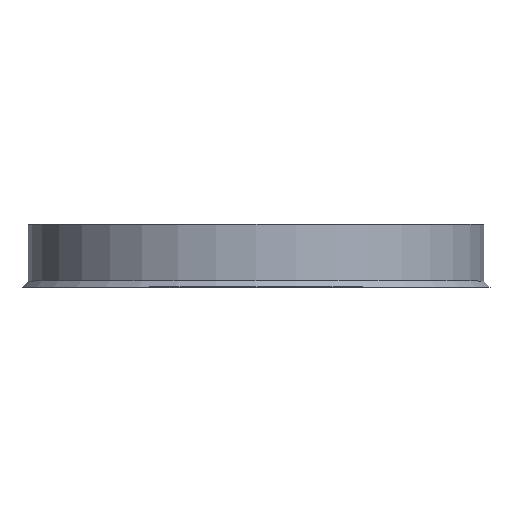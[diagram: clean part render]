
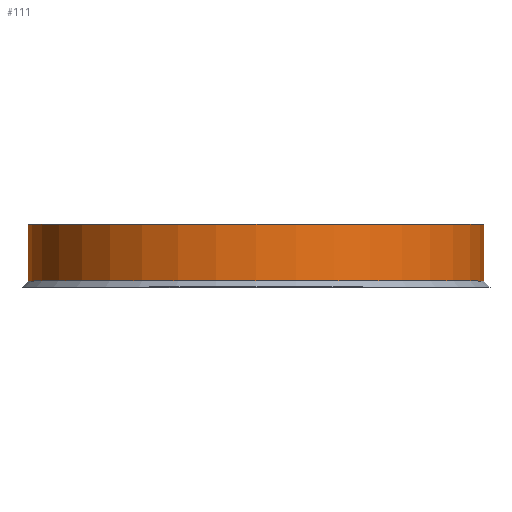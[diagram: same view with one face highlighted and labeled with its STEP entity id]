
A CAD part, top view. The second image highlights one B-rep face of the part: STEP entity #111.
In plain terms, the highlighted cylindrical face has radius 36.3 mm (diameter 72.6 mm), a full revolution.
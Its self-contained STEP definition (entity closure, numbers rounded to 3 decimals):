
#20=CYLINDRICAL_SURFACE('',#149,36.3);
#27=FACE_OUTER_BOUND('',#36,.T.);
#36=EDGE_LOOP('',(#97,#98,#99,#100,#101));
#41=LINE('',#215,#46);
#46=VECTOR('',#186,36.3);
#50=CIRCLE('',#141,36.3);
#53=CIRCLE('',#147,36.3);
#54=CIRCLE('',#148,36.3);
#58=VERTEX_POINT('',#199);
#61=VERTEX_POINT('',#209);
#62=VERTEX_POINT('',#210);
#68=EDGE_CURVE('',#58,#58,#50,.T.);
#72=EDGE_CURVE('',#61,#62,#53,.T.);
#74=EDGE_CURVE('',#62,#61,#54,.T.);
#75=EDGE_CURVE('',#58,#62,#41,.T.);
#97=ORIENTED_EDGE('',*,*,#68,.F.);
#98=ORIENTED_EDGE('',*,*,#75,.T.);
#99=ORIENTED_EDGE('',*,*,#74,.T.);
#100=ORIENTED_EDGE('',*,*,#72,.T.);
#101=ORIENTED_EDGE('',*,*,#75,.F.);
#111=ADVANCED_FACE('',(#27),#20,.T.);
#141=AXIS2_PLACEMENT_3D('',#200,#166,#167);
#147=AXIS2_PLACEMENT_3D('',#211,#179,#180);
#148=AXIS2_PLACEMENT_3D('',#213,#182,#183);
#149=AXIS2_PLACEMENT_3D('',#214,#184,#185);
#166=DIRECTION('center_axis',(0.,1.,0.));
#167=DIRECTION('ref_axis',(-1.,0.,0.));
#179=DIRECTION('center_axis',(0.,1.,0.));
#180=DIRECTION('ref_axis',(-1.,0.,0.));
#182=DIRECTION('center_axis',(0.,1.,0.));
#183=DIRECTION('ref_axis',(-1.,0.,0.));
#184=DIRECTION('center_axis',(0.,1.,0.));
#185=DIRECTION('ref_axis',(-1.,0.,0.));
#186=DIRECTION('',(0.,-1.,0.));
#199=CARTESIAN_POINT('',(36.3,10.,0.));
#200=CARTESIAN_POINT('Origin',(0.,10.,0.));
#209=CARTESIAN_POINT('',(-36.3,1.,0.));
#210=CARTESIAN_POINT('',(36.3,1.,0.));
#211=CARTESIAN_POINT('Origin',(0.,1.,0.));
#213=CARTESIAN_POINT('Origin',(0.,1.,0.));
#214=CARTESIAN_POINT('Origin',(0.,0.,0.));
#215=CARTESIAN_POINT('',(36.3,0.,0.));
